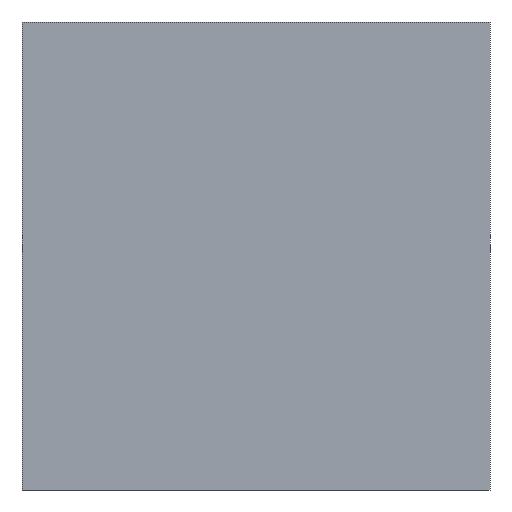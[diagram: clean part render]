
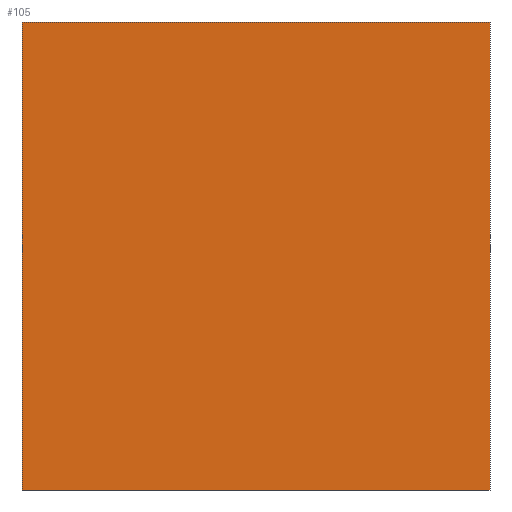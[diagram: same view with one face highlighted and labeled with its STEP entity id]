
A CAD part, left-side view. The second image highlights one B-rep face of the part: STEP entity #105.
In plain terms, the highlighted planar face has unit normal (-1, 0, 0).
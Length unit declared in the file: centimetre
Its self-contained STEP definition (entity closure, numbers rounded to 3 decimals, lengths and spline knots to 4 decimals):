
#5 = CARTESIAN_POINT ( 'NONE',  ( 0., 1000., 1000. ) ) ;
#8 = CARTESIAN_POINT ( 'NONE',  ( 0., 1000., 1000. ) ) ;
#16 = DIRECTION ( 'NONE',  ( 0., 0., -1. ) ) ;
#33 = LINE ( 'NONE', #312, #203 ) ;
#45 = CARTESIAN_POINT ( 'NONE',  ( 0., 1000., 1000. ) ) ;
#72 = CARTESIAN_POINT ( 'NONE',  ( 0., 1000., 0. ) ) ;
#80 = VECTOR ( 'NONE', #214, 100. ) ;
#89 = VECTOR ( 'NONE', #16, 100. ) ;
#97 = EDGE_CURVE ( 'NONE', #327, #385, #416, .T. ) ;
#100 = EDGE_LOOP ( 'NONE', ( #247, #235, #375, #323 ) ) ;
#101 = AXIS2_PLACEMENT_3D ( 'NONE', #281, #317, #142 ) ;
#102 = CARTESIAN_POINT ( 'NONE',  ( 0., 0., 1000. ) ) ;
#105 = ADVANCED_FACE ( 'NONE', ( #348 ), #146, .F. ) ;
#110 = VECTOR ( 'NONE', #176, 100. ) ;
#138 = DIRECTION ( 'NONE',  ( 0., -1., 0. ) ) ;
#142 = DIRECTION ( 'NONE',  ( 0., 0., -1. ) ) ;
#146 = PLANE ( 'NONE',  #101 ) ;
#176 = DIRECTION ( 'NONE',  ( 0., -1., 0. ) ) ;
#203 = VECTOR ( 'NONE', #138, 100. ) ;
#214 = DIRECTION ( 'NONE',  ( 0., 0., -1. ) ) ;
#232 = VERTEX_POINT ( 'NONE', #5 ) ;
#235 = ORIENTED_EDGE ( 'NONE', *, *, #97, .F. ) ;
#247 = ORIENTED_EDGE ( 'NONE', *, *, #429, .T. ) ;
#251 = CARTESIAN_POINT ( 'NONE',  ( 0., 0., 1000. ) ) ;
#252 = VERTEX_POINT ( 'NONE', #72 ) ;
#275 = LINE ( 'NONE', #8, #80 ) ;
#281 = CARTESIAN_POINT ( 'NONE',  ( 0., 1000., 1000. ) ) ;
#290 = EDGE_CURVE ( 'NONE', #232, #252, #275, .T. ) ;
#312 = CARTESIAN_POINT ( 'NONE',  ( 0., 1000., 0. ) ) ;
#317 = DIRECTION ( 'NONE',  ( 1., 0., 0. ) ) ;
#323 = ORIENTED_EDGE ( 'NONE', *, *, #290, .T. ) ;
#327 = VERTEX_POINT ( 'NONE', #102 ) ;
#348 = FACE_OUTER_BOUND ( 'NONE', #100, .T. ) ;
#350 = CARTESIAN_POINT ( 'NONE',  ( 0., 0., 0. ) ) ;
#363 = EDGE_CURVE ( 'NONE', #232, #327, #376, .T. ) ;
#375 = ORIENTED_EDGE ( 'NONE', *, *, #363, .F. ) ;
#376 = LINE ( 'NONE', #45, #110 ) ;
#385 = VERTEX_POINT ( 'NONE', #350 ) ;
#416 = LINE ( 'NONE', #251, #89 ) ;
#429 = EDGE_CURVE ( 'NONE', #252, #385, #33, .T. ) ;
